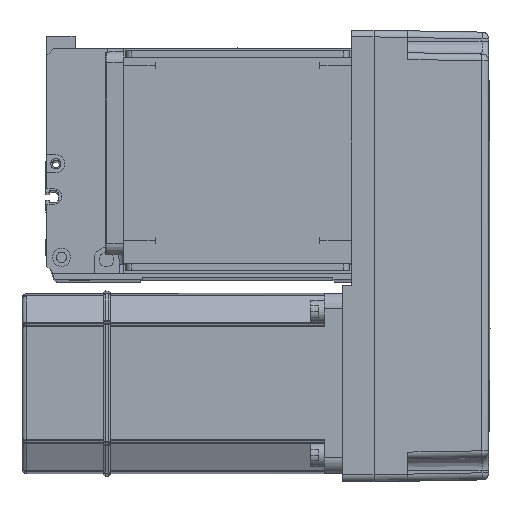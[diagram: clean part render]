
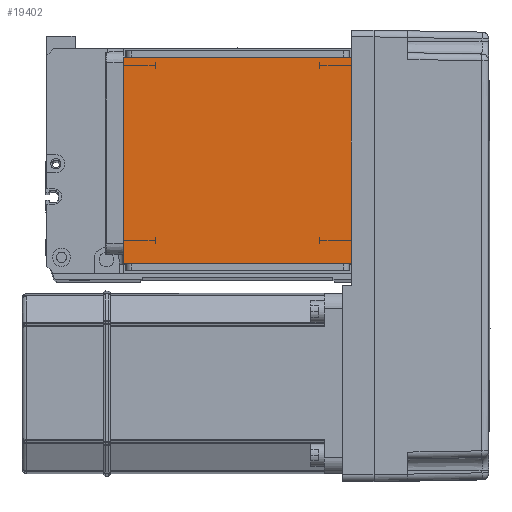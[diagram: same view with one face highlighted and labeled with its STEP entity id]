
A CAD part, top view. The second image highlights one B-rep face of the part: STEP entity #19402.
In plain terms, the highlighted planar face has unit normal (0, 0, 1).
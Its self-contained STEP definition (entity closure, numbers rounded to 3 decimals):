
#3766 = VERTEX_POINT ( 'NONE', #39063 ) ;
#4210 = VECTOR ( 'NONE', #18791, 1000. ) ;
#4288 = CARTESIAN_POINT ( 'NONE',  ( 50.5, 122., 115. ) ) ;
#6707 = EDGE_CURVE ( 'NONE', #9978, #3766, #9309, .T. ) ;
#8659 = DIRECTION ( 'NONE',  ( 0., 1., 0. ) ) ;
#9309 = LINE ( 'NONE', #4288, #54236 ) ;
#9339 = EDGE_CURVE ( 'NONE', #38387, #49130, #50586, .T. ) ;
#9554 = CARTESIAN_POINT ( 'NONE',  ( 50.5, 20., 115. ) ) ;
#9978 = VERTEX_POINT ( 'NONE', #9554 ) ;
#15806 = LINE ( 'NONE', #42714, #4210 ) ;
#16327 = CARTESIAN_POINT ( 'NONE',  ( 0., 0., 115. ) ) ;
#16882 = DIRECTION ( 'NONE',  ( 0., 0., 1. ) ) ;
#18791 = DIRECTION ( 'NONE',  ( -1., 0., 0. ) ) ;
#19402 = ADVANCED_FACE ( 'NONE', ( #42235 ), #47304, .T. ) ;
#26841 = EDGE_CURVE ( 'NONE', #9978, #49130, #15806, .T. ) ;
#29099 = DIRECTION ( 'NONE',  ( 1., 0., 0. ) ) ;
#31730 = ORIENTED_EDGE ( 'NONE', *, *, #9339, .T. ) ;
#34227 = CARTESIAN_POINT ( 'NONE',  ( -70.004, 111.5, 115. ) ) ;
#34700 = VECTOR ( 'NONE', #56342, 1000. ) ;
#35328 = CARTESIAN_POINT ( 'NONE',  ( -50.5, 20., 115. ) ) ;
#38387 = VERTEX_POINT ( 'NONE', #41794 ) ;
#39063 = CARTESIAN_POINT ( 'NONE',  ( 50.5, 111.5, 115. ) ) ;
#41794 = CARTESIAN_POINT ( 'NONE',  ( -50.5, 111.5, 115. ) ) ;
#42177 = DIRECTION ( 'NONE',  ( 0., -1., 0. ) ) ;
#42235 = FACE_OUTER_BOUND ( 'NONE', #55193, .T. ) ;
#42714 = CARTESIAN_POINT ( 'NONE',  ( -70.004, 20., 115. ) ) ;
#42929 = ORIENTED_EDGE ( 'NONE', *, *, #6707, .T. ) ;
#46451 = VECTOR ( 'NONE', #42177, 1000. ) ;
#46668 = EDGE_CURVE ( 'NONE', #38387, #3766, #46907, .T. ) ;
#46907 = LINE ( 'NONE', #34227, #34700 ) ;
#47304 = PLANE ( 'NONE',  #50224 ) ;
#49130 = VERTEX_POINT ( 'NONE', #35328 ) ;
#50217 = CARTESIAN_POINT ( 'NONE',  ( -50.5, 122., 115. ) ) ;
#50224 = AXIS2_PLACEMENT_3D ( 'NONE', #16327, #16882, #29099 ) ;
#50586 = LINE ( 'NONE', #50217, #46451 ) ;
#54107 = ORIENTED_EDGE ( 'NONE', *, *, #26841, .F. ) ;
#54236 = VECTOR ( 'NONE', #8659, 1000. ) ;
#55193 = EDGE_LOOP ( 'NONE', ( #56331, #31730, #54107, #42929 ) ) ;
#56331 = ORIENTED_EDGE ( 'NONE', *, *, #46668, .F. ) ;
#56342 = DIRECTION ( 'NONE',  ( 1., 0., 0. ) ) ;
